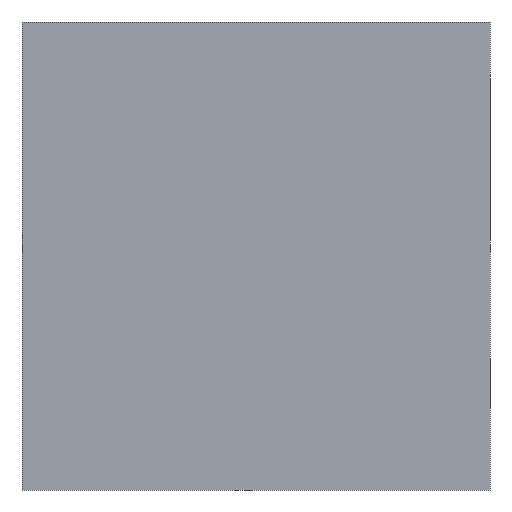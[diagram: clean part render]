
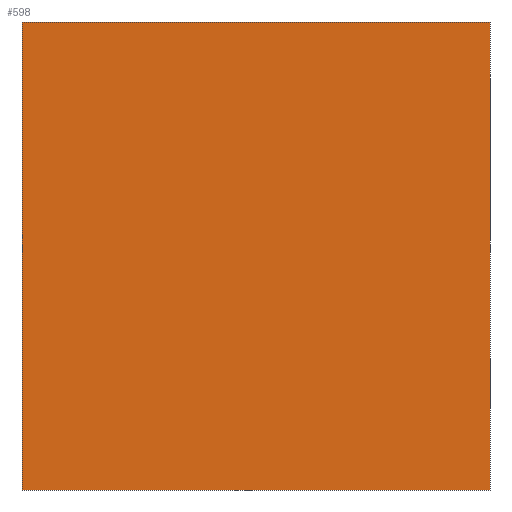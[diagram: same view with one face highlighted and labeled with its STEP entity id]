
A CAD part, front view. The second image highlights one B-rep face of the part: STEP entity #598.
In plain terms, the highlighted planar face has unit normal (0, -1, 0).
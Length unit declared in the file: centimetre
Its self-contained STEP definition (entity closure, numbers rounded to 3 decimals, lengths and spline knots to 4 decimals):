
#10 = DIRECTION ( 'NONE',  ( 0., 0., -1. ) ) ;
#37 = ORIENTED_EDGE ( 'NONE', *, *, #606, .T. ) ;
#111 = CARTESIAN_POINT ( 'NONE',  ( 1000., 0., 0. ) ) ;
#112 = EDGE_LOOP ( 'NONE', ( #241, #567, #438, #37 ) ) ;
#141 = CARTESIAN_POINT ( 'NONE',  ( 0., 0., 1000. ) ) ;
#152 = VERTEX_POINT ( 'NONE', #605 ) ;
#179 = DIRECTION ( 'NONE',  ( 0., 0., -1. ) ) ;
#194 = VERTEX_POINT ( 'NONE', #111 ) ;
#241 = ORIENTED_EDGE ( 'NONE', *, *, #596, .T. ) ;
#255 = CARTESIAN_POINT ( 'NONE',  ( 0., 0., 1000. ) ) ;
#280 = DIRECTION ( 'NONE',  ( 0., 1., 0. ) ) ;
#282 = DIRECTION ( 'NONE',  ( 1., 0., 0. ) ) ;
#283 = EDGE_CURVE ( 'NONE', #152, #194, #414, .T. ) ;
#327 = DIRECTION ( 'NONE',  ( 0., 0., 1. ) ) ;
#333 = FACE_OUTER_BOUND ( 'NONE', #112, .T. ) ;
#371 = CARTESIAN_POINT ( 'NONE',  ( 0., 0., 0. ) ) ;
#374 = CARTESIAN_POINT ( 'NONE',  ( 0., 0., 1000. ) ) ;
#414 = LINE ( 'NONE', #461, #454 ) ;
#420 = VECTOR ( 'NONE', #574, 100. ) ;
#424 = CARTESIAN_POINT ( 'NONE',  ( 0., 0., 1000. ) ) ;
#428 = CARTESIAN_POINT ( 'NONE',  ( 0., 0., 0. ) ) ;
#435 = LINE ( 'NONE', #141, #442 ) ;
#438 = ORIENTED_EDGE ( 'NONE', *, *, #502, .F. ) ;
#442 = VECTOR ( 'NONE', #282, 100. ) ;
#451 = VECTOR ( 'NONE', #179, 100. ) ;
#454 = VECTOR ( 'NONE', #10, 100. ) ;
#461 = CARTESIAN_POINT ( 'NONE',  ( 1000., 0., 1000. ) ) ;
#464 = VERTEX_POINT ( 'NONE', #428 ) ;
#485 = AXIS2_PLACEMENT_3D ( 'NONE', #424, #280, #327 ) ;
#502 = EDGE_CURVE ( 'NONE', #542, #152, #435, .T. ) ;
#528 = LINE ( 'NONE', #371, #420 ) ;
#537 = PLANE ( 'NONE',  #485 ) ;
#542 = VERTEX_POINT ( 'NONE', #255 ) ;
#567 = ORIENTED_EDGE ( 'NONE', *, *, #283, .F. ) ;
#574 = DIRECTION ( 'NONE',  ( 1., 0., 0. ) ) ;
#596 = EDGE_CURVE ( 'NONE', #464, #194, #528, .T. ) ;
#598 = ADVANCED_FACE ( 'NONE', ( #333 ), #537, .F. ) ;
#605 = CARTESIAN_POINT ( 'NONE',  ( 1000., 0., 1000. ) ) ;
#606 = EDGE_CURVE ( 'NONE', #542, #464, #629, .T. ) ;
#629 = LINE ( 'NONE', #374, #451 ) ;
